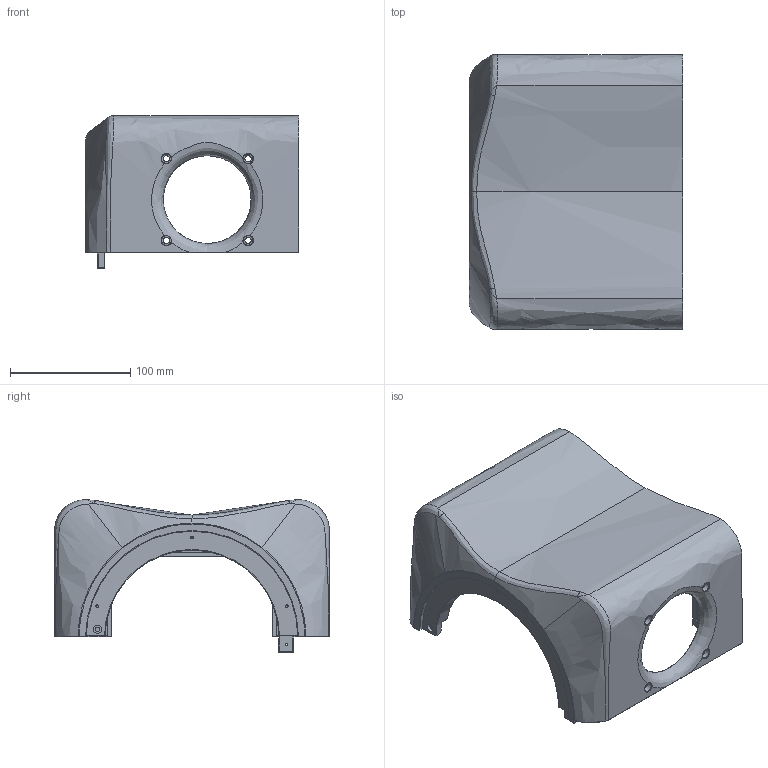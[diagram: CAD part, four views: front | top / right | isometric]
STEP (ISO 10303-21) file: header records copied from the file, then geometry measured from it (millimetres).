
FILE_DESCRIPTION(/* description */ (''),/* implementation_level */ '2;1');
FILE_NAME(/* name */ 'TB 4-Pack Enclosure- Top.step',/* time_stamp */ '2026-01-13T13:07:50-05:00',/* author */ (''),/* organization */ (''),/* preprocessor_version */ 'ST-DEVELOPER v20.1',/* originating_system */ 'Autodesk Translation Framework v14.21.0.0',/* authorisation */ '');
FILE_SCHEMA (('AUTOMOTIVE_DESIGN { 1 0 10303 214 3 1 1 }'));
Length unit declared in the file: inch
Products named in the file (1): MicroSub Tang Band Buyouts and SA25
Bounding box: 177.8 x 228.6 x 127 mm (x, y, z)
Volume: 865855.9 mm3; surface area: 187364.8 mm2
Topology: 1 solids, 1 shells, 261 faces, 746 edges, 483 vertices
Faces by surface type: bspline 120, cylinder 68, plane 63, torus 5, sphere 4, cone 1
Full cylindrical faces by diameter (mm): 2.184 x4, 3.556 x7, 5.207 x8, 6.35 x2, 6.858 x3, 8.001 x8, 73.025 x2
Entity records: 18544 total; most frequent: CARTESIAN_POINT 12552, ORIENTED_EDGE 1478, DIRECTION 866, EDGE_CURVE 739, VERTEX_POINT 483, AXIS2_PLACEMENT_3D 318, B_SPLINE_CURVE_WITH_KNOTS 313, EDGE_LOOP 306
